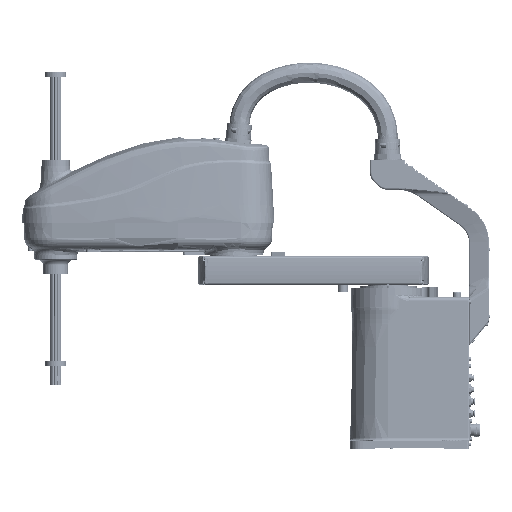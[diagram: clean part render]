
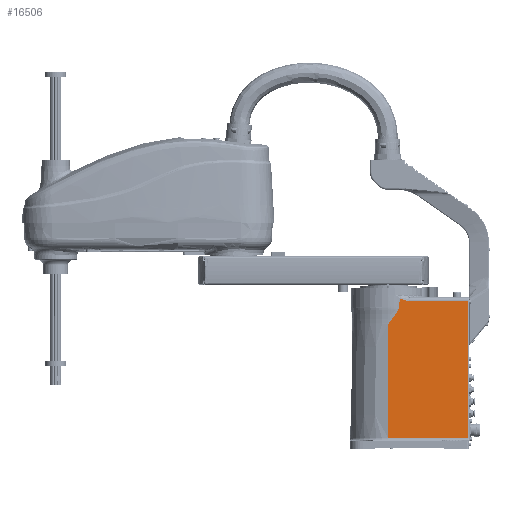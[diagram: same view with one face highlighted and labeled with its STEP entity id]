
A CAD part, left-side view. The second image highlights one B-rep face of the part: STEP entity #16506.
In plain terms, the highlighted planar face has unit normal (-1, 0, 0.018).
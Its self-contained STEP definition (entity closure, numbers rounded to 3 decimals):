
#4391 = DIRECTION ( 'NONE',  ( 0.017, 0., 1. ) ) ;
#7003 = CARTESIAN_POINT ( 'NONE',  ( -75., 0., 320. ) ) ;
#8241 = CARTESIAN_POINT ( 'NONE',  ( -75.183, -23.893, 309.504 ) ) ;
#10423 = EDGE_LOOP ( 'NONE', ( #72837, #154707, #123560, #13000, #121130, #203369, #209892, #82049 ) ) ;
#11160 = CARTESIAN_POINT ( 'NONE',  ( -75.467, -21.411, 293.235 ) ) ;
#13000 = ORIENTED_EDGE ( 'NONE', *, *, #20007, .T. ) ;
#15939 = VECTOR ( 'NONE', #68848, 1000. ) ;
#16506 = ADVANCED_FACE ( 'NONE', ( #100597 ), #227589, .T. ) ;
#20007 = EDGE_CURVE ( 'NONE', #208152, #213778, #125712, .T. ) ;
#25694 = DIRECTION ( 'NONE',  ( -0.017, 0., -1. ) ) ;
#27700 = CARTESIAN_POINT ( 'NONE',  ( -75.433, -22.083, 295.22 ) ) ;
#28094 = VERTEX_POINT ( 'NONE', #71656 ) ;
#28291 = CARTESIAN_POINT ( 'NONE',  ( -75.044, -25.062, 317.46 ) ) ;
#32408 = CARTESIAN_POINT ( 'NONE',  ( -75.539, -19.116, 289.111 ) ) ;
#40102 = VERTEX_POINT ( 'NONE', #108133 ) ;
#46947 = CARTESIAN_POINT ( 'NONE',  ( -75.04, -24.678, 317.7 ) ) ;
#52787 = CARTESIAN_POINT ( 'NONE',  ( -75.69, -12.697, 280.457 ) ) ;
#66487 = CARTESIAN_POINT ( 'NONE',  ( -75.076, -28.69, 315.626 ) ) ;
#66794 = CARTESIAN_POINT ( 'NONE',  ( -75.04, -24.678, 317.7 ) ) ;
#67650 = CARTESIAN_POINT ( 'NONE',  ( -75.29, -23.25, 303.365 ) ) ;
#68502 = CARTESIAN_POINT ( 'NONE',  ( -75.326, -23.023, 301.32 ) ) ;
#68848 = DIRECTION ( 'NONE',  ( 0., 1., 0. ) ) ;
#69040 = CARTESIAN_POINT ( 'NONE',  ( -75.07, -27.865, 315.99 ) ) ;
#69483 = CARTESIAN_POINT ( 'NONE',  ( -75.04, -24.678, 317.7 ) ) ;
#69942 = CARTESIAN_POINT ( 'NONE',  ( -75.137, -45.315, 312.14 ) ) ;
#70539 = VECTOR ( 'NONE', #164557, 1000. ) ;
#71656 = CARTESIAN_POINT ( 'NONE',  ( -80.168, -169., 23.913 ) ) ;
#72837 = ORIENTED_EDGE ( 'NONE', *, *, #75314, .T. ) ;
#75314 = EDGE_CURVE ( 'NONE', #85934, #28094, #262348, .T. ) ;
#78758 = EDGE_CURVE ( 'NONE', #40102, #85934, #94559, .T. ) ;
#79546 = LINE ( 'NONE', #189394, #15939 ) ;
#82049 = ORIENTED_EDGE ( 'NONE', *, *, #78758, .T. ) ;
#85934 = VERTEX_POINT ( 'NONE', #149330 ) ;
#86646 = EDGE_CURVE ( 'NONE', #142894, #40102, #225009, .T. ) ;
#86840 = CARTESIAN_POINT ( 'NONE',  ( -75.108, -33.8, 313.821 ) ) ;
#87718 = CARTESIAN_POINT ( 'NONE',  ( -75.056, -26.248, 316.795 ) ) ;
#88012 = CARTESIAN_POINT ( 'NONE',  ( -75.38, -22.644, 298.258 ) ) ;
#88330 = CARTESIAN_POINT ( 'NONE',  ( -75.493, -20.832, 291.756 ) ) ;
#88588 = CARTESIAN_POINT ( 'NONE',  ( -75.126, -38.159, 312.774 ) ) ;
#89902 = EDGE_CURVE ( 'NONE', #94904, #142894, #130113, .T. ) ;
#90373 = EDGE_CURVE ( 'NONE', #213778, #94904, #213307, .T. ) ;
#94559 = LINE ( 'NONE', #204624, #164151 ) ;
#94904 = VERTEX_POINT ( 'NONE', #137318 ) ;
#97186 = CARTESIAN_POINT ( 'NONE',  ( -75.539, -19.116, 289.111 ) ) ;
#100597 = FACE_OUTER_BOUND ( 'NONE', #10423, .T. ) ;
#102865 = AXIS2_PLACEMENT_3D ( 'NONE', #7003, #148696, #4391 ) ;
#108082 = CARTESIAN_POINT ( 'NONE',  ( -75.088, -30.367, 314.953 ) ) ;
#108133 = CARTESIAN_POINT ( 'NONE',  ( -75.994, 0., 263.043 ) ) ;
#117151 = EDGE_CURVE ( 'NONE', #28094, #199211, #260621, .T. ) ;
#118269 = CARTESIAN_POINT ( 'NONE',  ( -75.994, 0., 263.043 ) ) ;
#121130 = ORIENTED_EDGE ( 'NONE', *, *, #90373, .T. ) ;
#123560 = ORIENTED_EDGE ( 'NONE', *, *, #206144, .T. ) ;
#125712 = B_SPLINE_CURVE_WITH_KNOTS ( 'NONE', 3,
 ( #69942, #128384, #167382, #88588, #127536, #86840, #230265, #228545, #108082, #66487, #69040, #232013, #87718, #149639, #28291, #46947 ),
 .UNSPECIFIED., .F., .F.,
 ( 4, 2, 2, 2, 2, 2, 2, 4 ),
 ( 0., 0.005, 0.011, 0.013, 0.016, 0.019, 0.02, 0.021 ),
 .UNSPECIFIED. ) ;
#127536 = CARTESIAN_POINT ( 'NONE',  ( -75.12, -36.405, 313.131 ) ) ;
#128384 = CARTESIAN_POINT ( 'NONE',  ( -75.137, -43.498, 312.14 ) ) ;
#130113 = B_SPLINE_CURVE_WITH_KNOTS ( 'NONE', 3,
 ( #11160, #88330, #209630, #213081 ),
 .UNSPECIFIED., .F., .F.,
 ( 4, 4 ),
 ( 0., 0.005 ),
 .UNSPECIFIED. ) ;
#137318 = CARTESIAN_POINT ( 'NONE',  ( -75.467, -21.411, 293.235 ) ) ;
#142894 = VERTEX_POINT ( 'NONE', #97186 ) ;
#148194 = CARTESIAN_POINT ( 'NONE',  ( -75.112, -24.288, 313.602 ) ) ;
#148696 = DIRECTION ( 'NONE',  ( -1., 0., 0.017 ) ) ;
#149330 = CARTESIAN_POINT ( 'NONE',  ( -80.168, 0., 23.913 ) ) ;
#149639 = CARTESIAN_POINT ( 'NONE',  ( -75.048, -25.455, 317.231 ) ) ;
#154707 = ORIENTED_EDGE ( 'NONE', *, *, #117151, .T. ) ;
#164151 = VECTOR ( 'NONE', #25694, 1000. ) ;
#164557 = DIRECTION ( 'NONE',  ( 0.017, 0., 1. ) ) ;
#165966 = CARTESIAN_POINT ( 'NONE',  ( -75.467, -21.411, 293.235 ) ) ;
#167382 = CARTESIAN_POINT ( 'NONE',  ( -75.135, -41.706, 312.278 ) ) ;
#168580 = CARTESIAN_POINT ( 'NONE',  ( -75.273, -23.359, 304.388 ) ) ;
#178534 = CARTESIAN_POINT ( 'NONE',  ( -75.842, -6.356, 271.744 ) ) ;
#183368 = DIRECTION ( 'NONE',  ( 0., -1., 0. ) ) ;
#189394 = CARTESIAN_POINT ( 'NONE',  ( -75.137, -30.594, 312.14 ) ) ;
#199211 = VERTEX_POINT ( 'NONE', #224771 ) ;
#200188 = CARTESIAN_POINT ( 'NONE',  ( -80.168, -170., 23.913 ) ) ;
#202690 = CARTESIAN_POINT ( 'NONE',  ( -75., -169., 320. ) ) ;
#203369 = ORIENTED_EDGE ( 'NONE', *, *, #89902, .T. ) ;
#204624 = CARTESIAN_POINT ( 'NONE',  ( -75., 0., 320. ) ) ;
#206144 = EDGE_CURVE ( 'NONE', #199211, #208152, #79546, .T. ) ;
#208152 = VERTEX_POINT ( 'NONE', #229187 ) ;
#209630 = CARTESIAN_POINT ( 'NONE',  ( -75.517, -20.061, 290.385 ) ) ;
#209892 = ORIENTED_EDGE ( 'NONE', *, *, #86646, .T. ) ;
#210187 = CARTESIAN_POINT ( 'NONE',  ( -75.344, -22.906, 300.298 ) ) ;
#213081 = CARTESIAN_POINT ( 'NONE',  ( -75.539, -19.116, 289.111 ) ) ;
#213307 = B_SPLINE_CURVE_WITH_KNOTS ( 'NONE', 3,
 ( #66794, #148194, #8241, #168580, #67650, #68502, #210187, #88012, #250031, #27700, #230561, #165966 ),
 .UNSPECIFIED., .F., .F.,
 ( 4, 2, 2, 2, 2, 4 ),
 ( 0., 0.012, 0.015, 0.019, 0.022, 0.025 ),
 .UNSPECIFIED. ) ;
#213778 = VERTEX_POINT ( 'NONE', #69483 ) ;
#224771 = CARTESIAN_POINT ( 'NONE',  ( -75.137, -169., 312.14 ) ) ;
#225009 = B_SPLINE_CURVE_WITH_KNOTS ( 'NONE', 3,
 ( #32408, #52787, #178534, #118269 ),
 .UNSPECIFIED., .F., .F.,
 ( 4, 4 ),
 ( 0., 0.032 ),
 .UNSPECIFIED. ) ;
#227589 = PLANE ( 'NONE',  #102865 ) ;
#228545 = CARTESIAN_POINT ( 'NONE',  ( -75.094, -31.219, 314.643 ) ) ;
#229187 = CARTESIAN_POINT ( 'NONE',  ( -75.137, -45.315, 312.14 ) ) ;
#230265 = CARTESIAN_POINT ( 'NONE',  ( -75.103, -32.937, 314.077 ) ) ;
#230561 = CARTESIAN_POINT ( 'NONE',  ( -75.45, -21.797, 294.221 ) ) ;
#232013 = CARTESIAN_POINT ( 'NONE',  ( -75.06, -26.649, 316.587 ) ) ;
#250031 = CARTESIAN_POINT ( 'NONE',  ( -75.397, -22.503, 297.239 ) ) ;
#255973 = VECTOR ( 'NONE', #183368, 1000. ) ;
#260621 = LINE ( 'NONE', #202690, #70539 ) ;
#262348 = LINE ( 'NONE', #200188, #255973 ) ;
